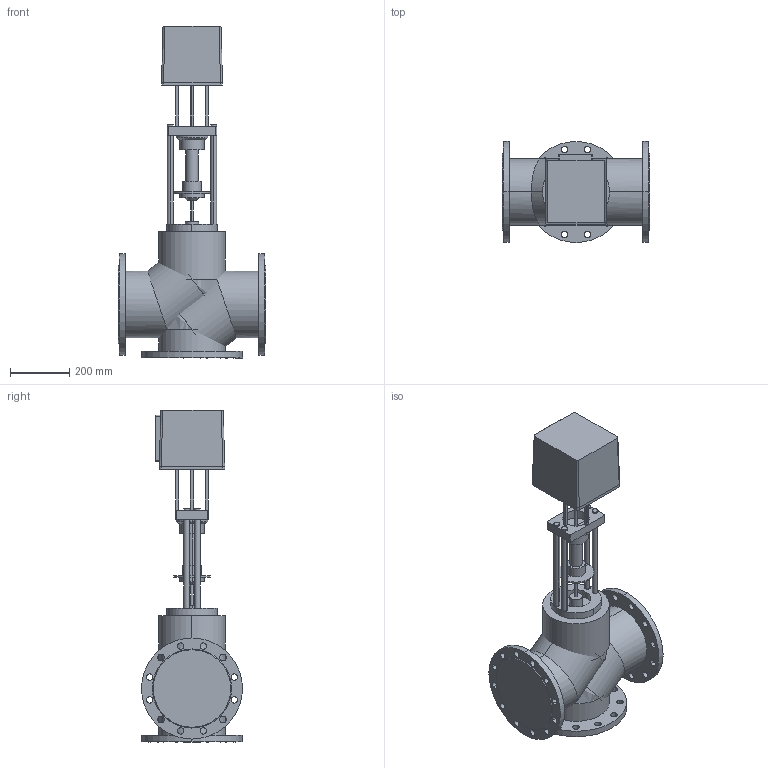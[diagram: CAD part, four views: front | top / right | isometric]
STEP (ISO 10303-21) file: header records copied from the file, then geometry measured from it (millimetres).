
FILE_DESCRIPTION(/* description */ (''),/* implementation_level */ '2;1');
FILE_NAME(/* name */ 'ТРК DN200 PN 1.6 МПа LEA 16000',/* time_stamp */ '2026-07-14T23:06:54+03:00',/* author */ (''),/* organization */ (''),/* preprocessor_version */ 'ST-DEVELOPER v20',/* originating_system */ '',/* authorisation */ '');
FILE_SCHEMA (('AP242_MANAGED_MODEL_BASED_3D_ENGINEERING_MIM_LF { 1 0 10303 442 1 1 4 }'));
Length unit declared in the file: millimetre
Products named in the file (13): TopLevelAssembly; Выдавливание; Модификатор; Модификатор_1; Выдавливание_
1; Выдавливание_
2; Вращение; Выдавливание_
3; Выдавливание_
4; 1600; Переход; Объемная геометрия 
присоединена; Объемная геометрия 
присоединена_1
Assembly tree (12 placements, depth 2):
  TopLevelAssembly
    Выдавливание
    Модификатор
    Модификатор_1
    Выдавливание_
1
    Выдавливание_
2
    Вращение
    Выдавливание_
3
    Выдавливание_
4
    1600
    Переход
    Объемная геометрия 
присоединена
    Объемная геометрия 
присоединена_1
Bounding box: 495 x 340 x 1117 mm (x, y, z)
Volume: 55850016.5 mm3; surface area: 2466977.7 mm2
Topology: 20 solids, 20 shells, 262 faces, 617 edges, 398 vertices
Faces by surface type: cylinder 158, plane 88, bspline 12, cone 4
Entity records: 8449 total; most frequent: CARTESIAN_POINT 1518, DIRECTION 1506, ORIENTED_EDGE 1218, AXIS2_PLACEMENT_3D 622, EDGE_CURVE 609, VERTEX_POINT 398, EDGE_LOOP 353, CIRCLE 335
